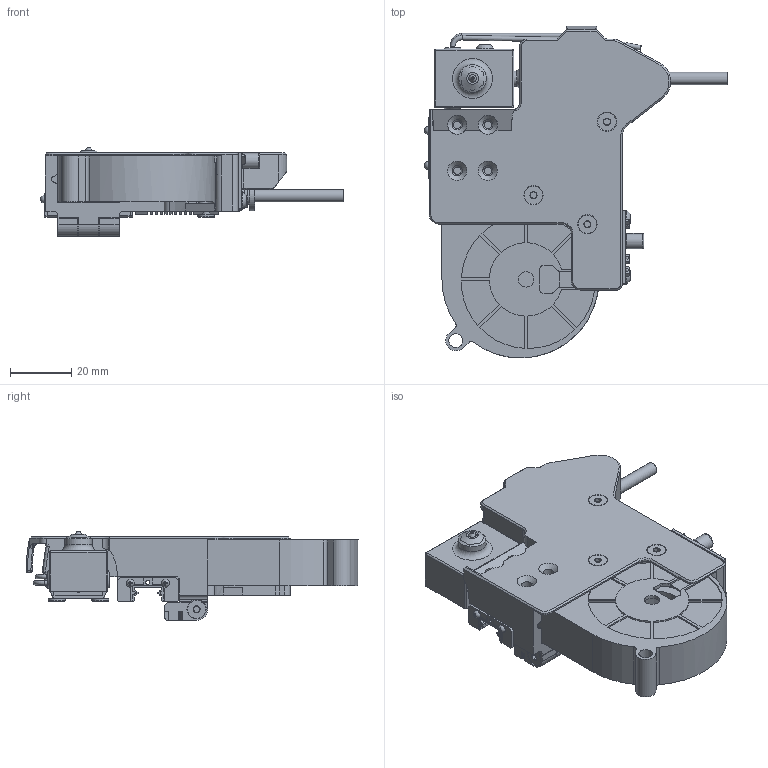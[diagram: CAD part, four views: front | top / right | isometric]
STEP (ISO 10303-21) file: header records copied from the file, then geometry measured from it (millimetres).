
FILE_DESCRIPTION(/* description */ (''),/* implementation_level */ '2;1');
FILE_NAME(/* name */ 'Toolhead LT v2 v30.step',/* time_stamp */ '2023-02-20T21:35:49+01:00',/* author */ (''),/* organization */ (''),/* preprocessor_version */ 'ST-DEVELOPER v19.2',/* originating_system */ 'Autodesk Translation Framework v11.17.0.187',/* authorisation */ '');
FILE_SCHEMA (('AUTOMOTIVE_DESIGN { 1 0 10303 214 3 1 1 }'));
Length unit declared in the file: millimetre
Products named in the file (45): Toolhead LT v2; MGN9-C v2 v1; Komponente20; Komponente11; Komponente12; Komponente13; Komponente14; Komponente15; Komponente16; Komponente17; Komponente18; Komponente19; Positron V3 Hotend v1; ender 3 heatbreak v1; E3D V6 Nozzle (0.4mm) v1; mk8 radiator v1; M3x3.0 v1; Heater Cartrige; Hotend Heater block; M3x4 buttonhead v1; ISO 7380-1 M3x16mm; M3 Washer v1; Thermistor; Hotend block main body; Hotend Brass Insert; PTFE 4mm Fitting v1; Silicone Sock; Capricorn PTFE Tube; 30mm Fan Mockup 3010 v5 v1; Mini IR sensor v1; Radial-Cooling-Fan-5015-DC12V v1; turbine; top; bottom; Interconnect; Interconnect (1); Belt connector; Fasteners; M3 threaded plastic insert v1; M3 x18 Flathead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
Assembly tree (54 placements, depth 5):
  Toolhead LT v2
    MGN9-C v2 v1
      Komponente20
        Komponente11
        Komponente12
        Komponente13
        Komponente14
        Komponente15
        Komponente16
        Komponente17
        Komponente18
        Komponente19
    Positron V3 Hotend v1
      ender 3 heatbreak v1
      E3D V6 Nozzle (0.4mm) v1
      mk8 radiator v1
        M3x3.0 v1
      Heater Cartrige
      Hotend Heater block
        M3x4 buttonhead v1
          ISO 7380-1 M3x16mm
        M3 Washer v1
        Thermistor
        Hotend block main body
      Hotend Brass Insert
      PTFE 4mm Fitting v1
      Silicone Sock
      Capricorn PTFE Tube
    30mm Fan Mockup 3010 v5 v1
    Mini IR sensor v1
    Radial-Cooling-Fan-5015-DC12V v1
      turbine
      top
      bottom
    Interconnect
      Interconnect (1)
      Belt connector
    Fasteners
      M3 threaded plastic insert v1  x5
      M3 x18 Flathead
      91294A136_NO THREADS_Black-Oxide Alloy Steel Hex Drive Flat Head Scre
w
      90358A118_NO THREADS_Ultra-Low-Profile Socket Head Screw  x2
      91294A134_NO THREADS_Black-Oxide Alloy Steel Hex Drive Flat Head Scre
w  x4
      91294A126_NO THREADS_Black-Oxide Alloy Steel Hex Drive Flat Head Scre
w  x2
      92095A471_NO THREADS  x2
Bounding box: 99.03 x 108.46 x 29.05 mm (x, y, z)
Volume: 53393.1 mm3; surface area: 67160 mm2
Topology: 42 solids, 46 shells, 2445 faces, 6654 edges, 4373 vertices
Faces by surface type: cylinder 902, plane 872, bspline 479, cone 162, sphere 16, torus 14
Full cylindrical faces by diameter (mm): 0.4 x1, 1.288 x5, 1.5 x7, 1.509 x12, 1.9 x1, 2 x3, 2.05 x16, 2.356 x12, 2.4 x3, 2.5 x6, 2.529 x35, 2.603 x4, 2.8 x2, 2.9 x5, 2.927 x12, 3 x9, 3.086 x35, 3.175 x1, 3.2 x3, 3.4 x8, 4 x8, 4.2 x5, 4.25 x5, 4.5 x2, 4.6 x5, 4.744 x5, 4.9 x1, 5 x3, 5.035 x5, 5.5 x3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
Entity records: 132279 total; most frequent: CARTESIAN_POINT 83215, ORIENTED_EDGE 10432, DIRECTION 9554, EDGE_CURVE 5216, AXIS2_PLACEMENT_3D 3568, VERTEX_POINT 3434, LINE 2418, VECTOR 2418
